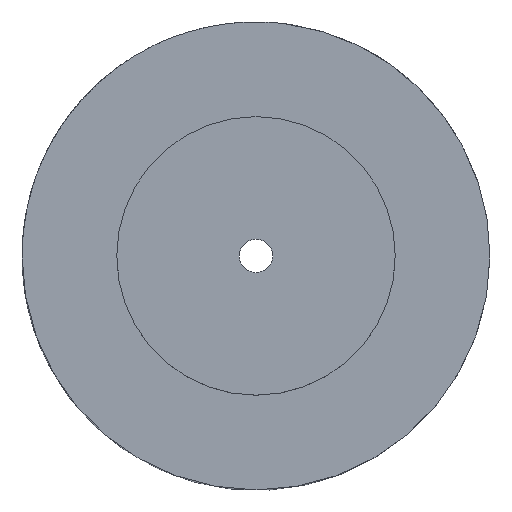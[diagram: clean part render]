
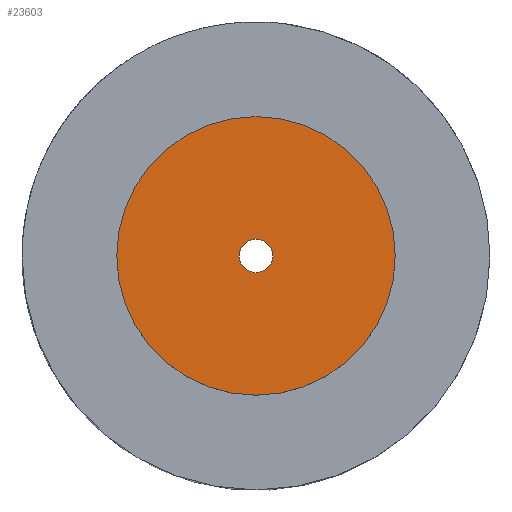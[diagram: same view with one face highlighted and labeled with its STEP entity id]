
A CAD part, top view. The second image highlights one B-rep face of the part: STEP entity #23603.
In plain terms, the highlighted planar face has unit normal (0, 0, 1).
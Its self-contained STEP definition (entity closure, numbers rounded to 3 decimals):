
#892 = DIRECTION ( 'NONE',  ( 1., 0., 0. ) ) ;
#4506 = AXIS2_PLACEMENT_3D ( 'NONE', #21219, #40367, #59895 ) ;
#5604 = FACE_OUTER_BOUND ( 'NONE', #15462, .T. ) ;
#6715 = EDGE_LOOP ( 'NONE', ( #27057, #8951 ) ) ;
#7354 = CARTESIAN_POINT ( 'NONE',  ( -25., 0., 33. ) ) ;
#8951 = ORIENTED_EDGE ( 'NONE', *, *, #14494, .T. ) ;
#14494 = EDGE_CURVE ( 'NONE', #61165, #56157, #52059, .T. ) ;
#14932 = DIRECTION ( 'NONE',  ( -1., 0., 0. ) ) ;
#15462 = EDGE_LOOP ( 'NONE', ( #20181, #36985 ) ) ;
#16642 = CIRCLE ( 'NONE', #20670, 25. ) ;
#19740 = AXIS2_PLACEMENT_3D ( 'NONE', #20672, #43927, #892 ) ;
#20181 = ORIENTED_EDGE ( 'NONE', *, *, #51544, .F. ) ;
#20670 = AXIS2_PLACEMENT_3D ( 'NONE', #25262, #49458, #14932 ) ;
#20672 = CARTESIAN_POINT ( 'NONE',  ( 0., 25., 33. ) ) ;
#21219 = CARTESIAN_POINT ( 'NONE',  ( 0., 0., 33. ) ) ;
#22996 = CARTESIAN_POINT ( 'NONE',  ( 3., 0., 33. ) ) ;
#23603 = ADVANCED_FACE ( 'NONE', ( #53392, #5604 ), #24771, .T. ) ;
#24150 = AXIS2_PLACEMENT_3D ( 'NONE', #38197, #57387, #52667 ) ;
#24536 = CIRCLE ( 'NONE', #4506, 25. ) ;
#24771 = PLANE ( 'NONE',  #19740 ) ;
#25262 = CARTESIAN_POINT ( 'NONE',  ( 0., 0., 33. ) ) ;
#27057 = ORIENTED_EDGE ( 'NONE', *, *, #37930, .T. ) ;
#27986 = DIRECTION ( 'NONE',  ( 0., 0., -1. ) ) ;
#29760 = CARTESIAN_POINT ( 'NONE',  ( -3., 0., 33. ) ) ;
#36026 = VERTEX_POINT ( 'NONE', #45325 ) ;
#36985 = ORIENTED_EDGE ( 'NONE', *, *, #48052, .F. ) ;
#37930 = EDGE_CURVE ( 'NONE', #56157, #61165, #51254, .T. ) ;
#38197 = CARTESIAN_POINT ( 'NONE',  ( 0., 0., 33. ) ) ;
#40367 = DIRECTION ( 'NONE',  ( 0., 0., -1. ) ) ;
#42734 = CARTESIAN_POINT ( 'NONE',  ( 0., 0., 33. ) ) ;
#43927 = DIRECTION ( 'NONE',  ( 0., 0., 1. ) ) ;
#45325 = CARTESIAN_POINT ( 'NONE',  ( 25., 0., 33. ) ) ;
#48052 = EDGE_CURVE ( 'NONE', #36026, #50562, #24536, .T. ) ;
#49458 = DIRECTION ( 'NONE',  ( 0., 0., -1. ) ) ;
#50562 = VERTEX_POINT ( 'NONE', #7354 ) ;
#51254 = CIRCLE ( 'NONE', #24150, 3. ) ;
#51544 = EDGE_CURVE ( 'NONE', #50562, #36026, #16642, .T. ) ;
#52059 = CIRCLE ( 'NONE', #57084, 3. ) ;
#52667 = DIRECTION ( 'NONE',  ( -1., 0., 0. ) ) ;
#53392 = FACE_BOUND ( 'NONE', #6715, .T. ) ;
#56157 = VERTEX_POINT ( 'NONE', #29760 ) ;
#57084 = AXIS2_PLACEMENT_3D ( 'NONE', #42734, #27986, #61964 ) ;
#57387 = DIRECTION ( 'NONE',  ( 0., 0., -1. ) ) ;
#59895 = DIRECTION ( 'NONE',  ( -1., 0., 0. ) ) ;
#61165 = VERTEX_POINT ( 'NONE', #22996 ) ;
#61964 = DIRECTION ( 'NONE',  ( -1., 0., 0. ) ) ;
